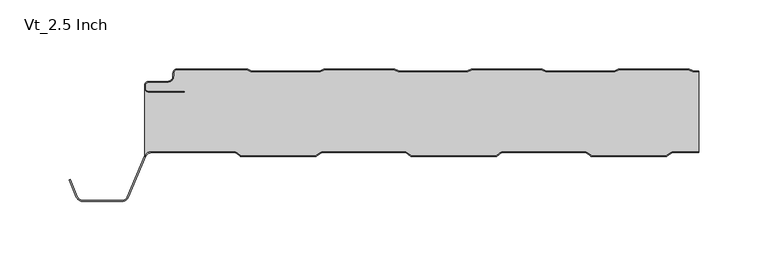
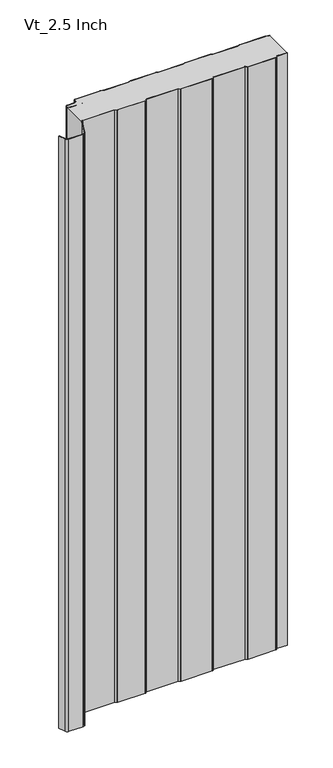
"""IFC4 building model written with IfcOpenShell, lengths in millimetres: plate geometry, AWIP_R18_CP_HR3_Vt_Roof Panel : Vt_2.5 Inch."""

import ifcopenshell
import ifcopenshell.guid

model = None  # the IFC model being written
_history = None  # IfcOwnerHistory: only IFC2X3 demands one
_inside = {}  # id of a spatial element -> (the spatial element, [elements in it])
_under = {}  # id of a project, library or spatial element -> (it, [spatial elements below it])
_declared = {}  # id of a project -> (the project, [libraries it declares])
_typed = {}  # id of a type object -> (the type object, [elements of that type])
_made_of = {}  # id of a material, layer set ... -> (it, [elements and type objects made of it])


def new_model(schema):
    """Start an empty IFC model of exactly this schema.

    Asked for "IFC4X3", IfcOpenShell would pick the latest addendum, in which some entities
    have other attributes; the version numbers below select the first issue.
    IFC2X3 requires an IfcOwnerHistory on every rooted entity: one is made here for all.
    """
    global model, _history
    if schema == "IFC4X3":
        model = ifcopenshell.file(schema_version=(4, 3, 0, 0))
    else:
        model = ifcopenshell.file(schema=schema)
    _inside.clear()
    _under.clear()
    _declared.clear()
    _typed.clear()
    _made_of.clear()
    _history = None
    if model.schema == "IFC2X3":
        org = make("IfcOrganization", Name="unknown")
        user = make(
            "IfcPersonAndOrganization",
            ThePerson=make("IfcPerson", FamilyName="unknown"),
            TheOrganization=org,
        )
        app = make(
            "IfcApplication",
            ApplicationDeveloper=org,
            Version="unknown",
            ApplicationFullName="unknown",
            ApplicationIdentifier="unknown",
        )
        _history = make(
            "IfcOwnerHistory",
            OwningUser=user,
            OwningApplication=app,
            ChangeAction="ADDED",
            CreationDate=0,
        )
    return model


def make(cls, **values):
    """One entity of the class cls with the attributes given. An attribute that is None is left unset."""
    return model.create_entity(
        cls, **{name: value for name, value in values.items() if value is not None}
    )


def rooted(cls, **values):
    """An entity with a GlobalId (a new one), such as an element, a storey or a relation."""
    return make(cls, GlobalId=ifcopenshell.guid.new(), OwnerHistory=_history, **values)


def si_unit(unit_type, name, prefix=None):
    """IfcSIUnit, for example si_unit("LENGTHUNIT", "METRE", prefix="MILLI")."""
    return make("IfcSIUnit", UnitType=unit_type, Prefix=prefix, Name=name)


def assignment(units):
    """IfcUnitAssignment: the units of a project."""
    return None if units is None else make("IfcUnitAssignment", Units=units)


def point(xyz):
    """IfcCartesianPoint."""
    return None if xyz is None else make("IfcCartesianPoint", Coordinates=xyz)


def direction(xyz):
    """IfcDirection."""
    return None if xyz is None else make("IfcDirection", DirectionRatios=xyz)


def frame(location, z_axis=None, x_axis=None):
    """IfcAxis2Placement3D, a coordinate frame: its origin and axes. An axis left out is left unset."""
    return make(
        "IfcAxis2Placement3D",
        Location=point(location),
        Axis=direction(z_axis),
        RefDirection=direction(x_axis),
    )


def frame_2d(location, x_axis=None):
    """IfcAxis2Placement2D, a coordinate frame in the plane: its origin and x axis."""
    return make(
        "IfcAxis2Placement2D", Location=point(location), RefDirection=direction(x_axis)
    )


def origin():
    """The frame at (0, 0, 0) with its axes left unset."""
    return frame((0.0, 0.0, 0.0))


def origin_with_axes():
    """The frame at (0, 0, 0) with the z axis (0, 0, 1) and the x axis (1, 0, 0) written out."""
    return frame((0.0, 0.0, 0.0), z_axis=(0.0, 0.0, 1.0), x_axis=(1.0, 0.0, 0.0))


def place(relative_to, where):
    """IfcLocalPlacement: puts the frame where relative to a parent placement (None: the world)."""
    return make(
        "IfcLocalPlacement", PlacementRelTo=relative_to, RelativePlacement=where
    )


def context(
    kind, dimensions, precision=None, world=None, true_north=None, identifier=None
):
    """IfcGeometricRepresentationContext, for example the 3D "Model" context."""
    return make(
        "IfcGeometricRepresentationContext",
        ContextIdentifier=identifier,
        ContextType=kind,
        CoordinateSpaceDimension=dimensions,
        Precision=precision,
        WorldCoordinateSystem=world,
        TrueNorth=true_north,
    )


def project(units=None, contexts=None):
    """IfcProject with its units and contexts."""
    return rooted(
        "IfcProject",
        Name="project",
        RepresentationContexts=contexts,
        UnitsInContext=assignment(units),
    )


def spatial(cls, under=None, at=None, **own):
    """A site, building, storey or space (cls), placed at a placement, below another one or the project."""
    s = rooted(cls, ObjectPlacement=at, **own)
    if under is not None:
        _under.setdefault(under.id(), (under, []))[1].append(s)
    return s


def polyline(points):
    """IfcPolyline through the points."""
    return make("IfcPolyline", Points=[point(p) for p in points])


def circle_curve(where, radius):
    """IfcCircle in the frame where."""
    return make("IfcCircle", Position=where, Radius=radius)


def trimmed(basis, trim1, trim2, sense, master):
    """IfcTrimmedCurve: the piece of a basis curve between two trims."""
    return make(
        "IfcTrimmedCurve",
        BasisCurve=basis,
        Trim1=trim1,
        Trim2=trim2,
        SenseAgreement=sense,
        MasterRepresentation=master,
    )


def segment(curve, same_sense, transition):
    """IfcCompositeCurveSegment."""
    return make(
        "IfcCompositeCurveSegment",
        Transition=transition,
        SameSense=same_sense,
        ParentCurve=curve,
    )


def composite_curve(segments, self_intersect=None):
    """IfcCompositeCurve: segments joined end to end."""
    return make("IfcCompositeCurve", Segments=segments, SelfIntersect=self_intersect)


def outline(outer, holes=None, kind="AREA"):
    """IfcArbitraryClosedProfileDef: a profile drawn as a closed curve; with holes, ...WithVoids."""
    if holes is None:
        return make("IfcArbitraryClosedProfileDef", ProfileType=kind, OuterCurve=outer)
    return make(
        "IfcArbitraryProfileDefWithVoids",
        ProfileType=kind,
        OuterCurve=outer,
        InnerCurves=holes,
    )


def extrude(swept, where, along, depth):
    """IfcExtrudedAreaSolid: the profile swept, set in the frame where, extruded along a direction by depth."""
    return make(
        "IfcExtrudedAreaSolid",
        SweptArea=swept,
        Position=where,
        ExtrudedDirection=direction(along),
        Depth=depth,
    )


def shape(context_of_items, identifier, shape_type, items):
    """IfcShapeRepresentation: the items that make up one representation, for example the "Body"."""
    return make(
        "IfcShapeRepresentation",
        ContextOfItems=context_of_items,
        RepresentationIdentifier=identifier,
        RepresentationType=shape_type,
        Items=items,
    )


def source(mapping_origin, context_of_items, identifier, shape_type, items):
    """IfcRepresentationMap: a shape defined once, which mapped items show again and again."""
    return make(
        "IfcRepresentationMap",
        MappingOrigin=mapping_origin,
        MappedRepresentation=shape(context_of_items, identifier, shape_type, items),
    )


def transform(
    local_origin,
    x_axis=None,
    y_axis=None,
    z_axis=None,
    scale=None,
    scale2=None,
    scale3=None,
    uniform=True,
):
    """IfcCartesianTransformationOperator3D, or its non-uniform kind. x_axis, y_axis, z_axis: its Axis1, 2, 3."""
    if uniform:
        return make(
            "IfcCartesianTransformationOperator3D",
            Axis1=direction(x_axis),
            Axis2=direction(y_axis),
            LocalOrigin=point(local_origin),
            Scale=scale,
            Axis3=direction(z_axis),
        )
    return make(
        "IfcCartesianTransformationOperator3DnonUniform",
        Axis1=direction(x_axis),
        Axis2=direction(y_axis),
        LocalOrigin=point(local_origin),
        Scale=scale,
        Axis3=direction(z_axis),
        Scale2=scale2,
        Scale3=scale3,
    )


def mapped(mapping_source, mapping_target):
    """IfcMappedItem: shows the shape of a source again, moved by a transform."""
    return make(
        "IfcMappedItem", MappingSource=mapping_source, MappingTarget=mapping_target
    )


def made_of(thing, what):
    """Note that an element or type object is made of a material, layer set ...; save() writes the relation."""
    if what is not None:
        _made_of.setdefault(what.id(), (what, []))[1].append(thing)
    return thing


def element(
    cls,
    number,
    at=None,
    inside=None,
    cuts=None,
    type_object=None,
    material=None,
    context=None,
    identifier="Body",
    shape_type=None,
    held_by="IfcProductDefinitionShape",
    body=None,
    shapes=None,
    **own,
):
    """One element of the class cls, such as IfcWall. Its Tag is "e" and its number.

    at: its placement. inside: the storey or other place that contains it. cuts: it is an
    opening in that element (IfcRelVoidsElement). A single representation is given by context,
    identifier, shape_type and body (its items); several are given by shapes. held_by: the class
    of the entity that holds the representations. save() writes the other relations.
    """
    e = rooted(cls, Tag="e%d" % number, ObjectPlacement=at, **own)
    if body is not None:
        shapes = [shape(context, identifier, shape_type, body)]
    if shapes is not None:
        e.Representation = make(held_by, Representations=shapes)
    if inside is not None:
        _inside.setdefault(inside.id(), (inside, []))[1].append(e)
    if cuts is not None:
        rooted(
            "IfcRelVoidsElement", RelatingBuildingElement=cuts, RelatedOpeningElement=e
        )
    if type_object is not None:
        _typed.setdefault(type_object.id(), (type_object, []))[1].append(e)
    return made_of(e, material)


def aggregate(whole, parts):
    """IfcRelAggregates: a whole, such as a stair, and the parts it consists of."""
    return rooted("IfcRelAggregates", RelatingObject=whole, RelatedObjects=parts)


def save(model, path):
    """Write the relations noted so far, then the file.

    IfcRelAggregates (storeys below a building ...), IfcRelContainedInSpatialStructure (elements
    in a storey), IfcRelDefinesByType, IfcRelAssociatesMaterial and IfcRelDeclares: one each for
    every whole, place, type object, material and project.
    """
    for whole, parts in _under.values():
        aggregate(whole, parts)
    for where, things in _inside.values():
        rooted(
            "IfcRelContainedInSpatialStructure",
            RelatedElements=things,
            RelatingStructure=where,
        )
    for kind, things in _typed.values():
        rooted("IfcRelDefinesByType", RelatedObjects=things, RelatingType=kind)
    for what, things in _made_of.values():
        rooted("IfcRelAssociatesMaterial", RelatedObjects=things, RelatingMaterial=what)
    for by, libraries in _declared.values():
        rooted("IfcRelDeclares", RelatingContext=by, RelatedDefinitions=libraries)
    model.write(path)


def plane_surface(at):
    """IfcPlane: the flat surface through the origin of the frame at, square to its z axis."""
    return make("IfcPlane", Position=at)


def cylinder_surface(at, radius):
    """IfcCylindricalSurface: all points at the distance radius from the z axis of the frame at."""
    return make("IfcCylindricalSurface", Position=at, Radius=radius)


def revolved_surface(curve, axis_point, axis_direction):
    """IfcSurfaceOfRevolution: the curve turned about the line through axis_point along axis_direction."""
    return make(
        "IfcSurfaceOfRevolution",
        SweptCurve=make("IfcArbitraryOpenProfileDef", ProfileType="CURVE", Curve=curve),
        AxisPosition=make("IfcAxis1Placement", Location=point(axis_point), Axis=direction(axis_direction)),
    )


def advanced_brep(points, edges, surfaces, faces):
    """IfcAdvancedBrep: a solid bounded by faces that lie on surfaces and meet in shared edges.

    An edge is (start, end): straight between two places in points (the first is 0);
    or (start, end, curve); or (start, end, curve, False) where it runs against its curve.
    A face is (place in surfaces, loops), or (place, loops, False) where it looks against
    its surface's normal. A loop lists edges by number (the first is 1), with a minus sign
    where the edge is run from its end to its start. The first loop is the outer one.
    """
    corners = [point(p) for p in points]
    vertices = [make("IfcVertexPoint", VertexGeometry=c) for c in corners]
    made = []
    for start, end, *more in edges:
        made.append(
            make(
                "IfcEdgeCurve",
                EdgeStart=vertices[start],
                EdgeEnd=vertices[end],
                EdgeGeometry=more[0] if more else make("IfcPolyline", Points=[corners[start], corners[end]]),
                SameSense=more[1] if len(more) > 1 else True,
            )
        )
    hull = []
    for where, loops, *sense in faces:
        bounds = []
        for j, loop in enumerate(loops):
            ring = [make("IfcOrientedEdge", EdgeElement=made[abs(k) - 1], Orientation=k > 0) for k in loop]
            bounds.append(
                make(
                    "IfcFaceOuterBound" if j == 0 else "IfcFaceBound",
                    Bound=make("IfcEdgeLoop", EdgeList=ring),
                    Orientation=True,
                )
            )
        hull.append(make("IfcAdvancedFace", Bounds=bounds, FaceSurface=surfaces[where], SameSense=sense[0] if sense else True))
    return make("IfcAdvancedBrep", Outer=make("IfcClosedShell", CfsFaces=hull))


def vt_2_5_inch_222ce7d2(model_context):
    return source(origin(), model_context, "Body", "SolidModel", [
        advanced_brep(
        [(215.9042607, -59.9158806, 1219.2), (215.9042607, -59.9158806, 0.0), (215.9042607, -2.3, 0.0), (215.9042607, -2.3, 1219.2), (-180.6614903, -59.9158805, 1219.2), (-119.8775734, -59.9158805, 1219.2), (-119.1161836, -60.1621797, 1219.2), (-115.604049, -62.7, 1219.2), (-61.4011687, -62.7, 1219.2), (-57.8890342, -60.1621797, 1219.2), (-57.1276444, -59.9158805, 1219.2), (3.3684818, -59.9158805, 1219.2), (4.1298717, -60.1621797, 1219.2), (7.6420063, -62.7000001, 1219.2), (69.1027521, -62.7000001, 1219.2), (72.6148867, -60.1621797, 1219.2), (73.3762764, -59.9158806, 1219.2), (133.8724069, -59.9158806, 1219.2), (134.6337968, -60.1621798, 1219.2), (138.1459308, -62.7000001, 1219.2), (192.3488119, -62.7000001, 1219.2), (195.8609464, -60.1621797, 1219.2), (196.6223362, -59.9158806, 1219.2), (212.4037368, -2.3, 1219.2), (211.0949824, -2.0293831, 1219.2), (208.7048832, -0.9968123, 1219.2), (207.7530619, -0.8, 1219.2), (158.8384168, -0.8, 1219.2), (157.8865954, -0.9968123, 1219.2), (155.4964962, -2.0293831, 1219.2), (154.1877419, -2.3, 1219.2), (105.8037368, -2.3, 1219.2), (104.4949824, -2.0293831, 1219.2), (102.1048832, -0.9968123, 1219.2), (101.1530619, -0.8, 1219.2), (52.2384168, -0.8, 1219.2), (51.2865954, -0.9968123, 1219.2), (48.8964962, -2.0293831, 1219.2), (47.5877419, -2.3, 1219.2), (-0.7962632, -2.3, 1219.2), (-2.1050176, -2.0293831, 1219.2), (-4.4951168, -0.9968123, 1219.2), (-5.4469381, -0.8, 1219.2), (-54.3615832, -0.8, 1219.2), (-55.3134046, -0.9968123, 1219.2), (-57.7035038, -2.0293831, 1219.2), (-59.0122581, -2.3, 1219.2), (-107.3962632, -2.3, 1219.2), (-108.7050176, -2.0293831, 1219.2), (-111.0951168, -0.9968123, 1219.2), (-112.0469381, -0.8, 1219.2), (-161.8042607, -0.8, 1219.2), (-164.0042607, -3.0, 1219.2), (-164.0042607, -5.0, 1219.2), (-168.8042607, -9.8, 1219.2), (-182.3200708, -9.8, 1219.2), (-184.5200708, -12.0, 1219.2), (-184.5200708, -14.0, 1219.2), (-182.3200708, -16.2, 1219.2), (-156.3790289, -16.2, 1219.2), (-156.3790289, -17.0, 1219.2), (-182.3200708, -17.0, 1219.2), (-185.3200708, -14.0, 1219.2), (-185.3370174, -63.6298575, 1219.2), (-180.6614903, -59.9158805, 0.0), (-185.3370174, -63.6298575, 0.0), (-185.3370174, -14.0, 0.0), (-182.3200708, -17.0, 0.0), (-156.3790289, -17.0, 0.0), (-156.3790289, -16.2, 0.0), (-182.3200708, -16.2, 0.0), (-184.5200708, -14.0, 0.0), (-184.5200708, -12.0, 0.0), (-182.3200708, -9.8, 0.0), (-168.8042607, -9.8, 0.0), (-164.0042607, -5.0, 0.0), (-164.0042607, -3.0, 0.0), (-161.8042607, -0.8, 0.0), (-112.0469381, -0.8, 0.0), (-111.0951168, -0.9968123, 0.0), (-108.7050176, -2.0293831, 0.0), (-107.3962632, -2.3, 0.0), (-59.0122581, -2.3, 0.0), (-57.7035038, -2.0293831, 0.0), (-55.3134046, -0.9968123, 0.0), (-54.3615832, -0.8, 0.0), (-5.4469381, -0.8, 0.0), (-4.4951168, -0.9968123, 0.0), (-2.1050176, -2.0293831, 0.0), (-0.7962632, -2.3, 0.0), (47.5877419, -2.3, 0.0), (48.8964962, -2.0293831, 0.0), (51.2865954, -0.9968123, 0.0), (52.2384168, -0.8, 0.0), (101.1530619, -0.8, 0.0), (102.1048832, -0.9968123, 0.0), (104.4949824, -2.0293831, 0.0), (105.8037368, -2.3, 0.0), (154.1877419, -2.3, 0.0), (155.4964962, -2.0293831, 0.0), (157.8865954, -0.9968123, 0.0), (158.8384168, -0.8, 0.0), (207.7530619, -0.8, 0.0), (208.7048832, -0.9968123, 0.0), (211.0949824, -2.0293831, 0.0), (212.4037368, -2.3, 0.0), (196.6223362, -59.9158806, 0.0), (195.8609464, -60.1621797, 0.0), (192.3488119, -62.7000001, 0.0), (138.1459308, -62.7000001, 0.0), (134.6337968, -60.1621798, 0.0), (133.8724069, -59.9158806, 0.0), (73.3762764, -59.9158806, 0.0), (72.6148867, -60.1621797, 0.0), (69.1027521, -62.7000001, 0.0), (7.6420063, -62.7000001, 0.0), (4.1298717, -60.1621797, 0.0), (3.3684818, -59.9158805, 0.0), (-57.1276444, -59.9158805, 0.0), (-57.8890342, -60.1621797, 0.0), (-61.4011687, -62.7, 0.0), (-115.604049, -62.7, 0.0), (-119.1161836, -60.1621797, 0.0), (-119.8775734, -59.9158805, 0.0)],
        [
            (0, 1),
            (1, 2),
            (2, 3),
            (3, 0),
            (4, 5),
            (5, 6, circle_curve(frame((-119.8775734, -61.2158805, 1219.2), z_axis=(0.0, 0.0, -1.0), x_axis=(0.0, -1.0, 0.0)), 1.3)),
            (6, 7),
            (7, 8),
            (8, 9),
            (9, 10, circle_curve(frame((-57.1276444, -61.2158805, 1219.2), z_axis=(0.0, 0.0, -1.0), x_axis=(0.0, -1.0, 0.0)), 1.3)),
            (10, 11),
            (11, 12, circle_curve(frame((3.3684818, -61.2158805, 1219.2), z_axis=(0.0, 0.0, -1.0), x_axis=(0.0, -1.0, 0.0)), 1.3)),
            (12, 13),
            (13, 14),
            (14, 15),
            (15, 16, circle_curve(frame((73.3762764, -61.2158804, 1219.2), z_axis=(0.0, 0.0, -1.0), x_axis=(0.0, -1.0, 0.0)), 1.2999998)),
            (16, 17),
            (17, 18, circle_curve(frame((133.8724069, -61.2158806, 1219.2), z_axis=(0.0, 0.0, -1.0), x_axis=(0.0, -1.0, 0.0)), 1.3)),
            (18, 19),
            (19, 20),
            (20, 21),
            (21, 22, circle_curve(frame((196.6223362, -61.2158806, 1219.2), z_axis=(0.0, 0.0, -1.0), x_axis=(0.0, -1.0, 0.0)), 1.3)),
            (22, 0),
            (3, 23),
            (23, 24, circle_curve(frame((212.4037368, 1.0, 1219.2), z_axis=(0.0, 0.0, -1.0), x_axis=(0.0, -1.0, 0.0)), 3.3)),
            (24, 25),
            (25, 26, circle_curve(frame((207.7530619, -3.2, 1219.2), z_axis=(0.0, 0.0, 1.0), x_axis=(0.0, -1.0, 0.0)), 2.4)),
            (26, 27),
            (27, 28, circle_curve(frame((158.8384168, -3.2, 1219.2), z_axis=(0.0, 0.0, 1.0), x_axis=(0.0, -1.0, 0.0)), 2.4)),
            (28, 29),
            (29, 30, circle_curve(frame((154.1877419, 1.0, 1219.2), z_axis=(0.0, 0.0, -1.0), x_axis=(0.0, -1.0, 0.0)), 3.3)),
            (30, 31),
            (31, 32, circle_curve(frame((105.8037368, 1.0, 1219.2), z_axis=(0.0, 0.0, -1.0), x_axis=(0.0, -1.0, 0.0)), 3.3)),
            (32, 33),
            (33, 34, circle_curve(frame((101.1530619, -3.2, 1219.2), z_axis=(0.0, 0.0, 1.0), x_axis=(0.0, -1.0, 0.0)), 2.4)),
            (34, 35),
            (35, 36, circle_curve(frame((52.2384168, -3.2, 1219.2), z_axis=(0.0, 0.0, 1.0), x_axis=(0.0, -1.0, 0.0)), 2.4)),
            (36, 37),
            (37, 38, circle_curve(frame((47.5877419, 1.0, 1219.2), z_axis=(0.0, 0.0, -1.0), x_axis=(0.0, -1.0, 0.0)), 3.3)),
            (38, 39),
            (39, 40, circle_curve(frame((-0.7962632, 1.0, 1219.2), z_axis=(0.0, 0.0, -1.0), x_axis=(0.0, -1.0, 0.0)), 3.3)),
            (40, 41),
            (41, 42, circle_curve(frame((-5.4469381, -3.2, 1219.2), z_axis=(0.0, 0.0, 1.0), x_axis=(0.0, -1.0, 0.0)), 2.4)),
            (42, 43),
            (43, 44, circle_curve(frame((-54.3615832, -3.2, 1219.2), z_axis=(0.0, 0.0, 1.0), x_axis=(0.0, -1.0, 0.0)), 2.4)),
            (44, 45),
            (45, 46, circle_curve(frame((-59.0122581, 1.0, 1219.2), z_axis=(0.0, 0.0, -1.0), x_axis=(0.0, -1.0, 0.0)), 3.3)),
            (46, 47),
            (47, 48, circle_curve(frame((-107.3962632, 1.0, 1219.2), z_axis=(0.0, 0.0, -1.0), x_axis=(0.0, -1.0, 0.0)), 3.3)),
            (48, 49),
            (49, 50, circle_curve(frame((-112.0469381, -3.2, 1219.2), z_axis=(0.0, 0.0, 1.0), x_axis=(0.0, -1.0, 0.0)), 2.4)),
            (50, 51),
            (51, 52, circle_curve(frame((-161.8042607, -3.0, 1219.2), z_axis=(0.0, 0.0, 1.0), x_axis=(0.0, -1.0, 0.0)), 2.2)),
            (52, 53),
            (53, 54, circle_curve(frame((-168.8042607, -5.0, 1219.2), z_axis=(0.0, 0.0, -1.0), x_axis=(0.0, -1.0, 0.0)), 4.8)),
            (54, 55),
            (55, 56, circle_curve(frame((-182.3200708, -12.0, 1219.2), z_axis=(0.0, 0.0, 1.0), x_axis=(0.0, -1.0, 0.0)), 2.2)),
            (56, 57),
            (57, 58, circle_curve(frame((-182.3200708, -14.0, 1219.2), z_axis=(0.0, 0.0, 1.0), x_axis=(0.0, -1.0, 0.0)), 2.2)),
            (58, 59),
            (59, 60),
            (60, 61),
            (61, 62, circle_curve(frame((-182.3200708, -14.0, 1219.2), z_axis=(0.0, 0.0, -1.0), x_axis=(0.0, -1.0, 0.0)), 3.0)),
            (62, 63),
            (63, 4, circle_curve(frame((-180.6614903, -64.7158804, 1219.2), z_axis=(0.0, 0.0, -1.0), x_axis=(0.0, -1.0, 0.0)), 4.7999999)),
            (64, 65, circle_curve(frame((-180.6614903, -64.7158804, 0.0), z_axis=(0.0, 0.0, 1.0), x_axis=(0.0, -1.0, 0.0)), 4.7999999)),
            (65, 66),
            (66, 67, circle_curve(frame((-182.3200708, -14.0, 0.0), z_axis=(0.0, 0.0, 1.0), x_axis=(0.0, -1.0, 0.0)), 3.0)),
            (67, 68),
            (68, 69),
            (69, 70),
            (70, 71, circle_curve(frame((-182.3200708, -14.0, 0.0), z_axis=(0.0, 0.0, -1.0), x_axis=(0.0, -1.0, 0.0)), 2.2)),
            (71, 72),
            (72, 73, circle_curve(frame((-182.3200708, -12.0, 0.0), z_axis=(0.0, 0.0, -1.0), x_axis=(0.0, -1.0, 0.0)), 2.2)),
            (73, 74),
            (74, 75, circle_curve(frame((-168.8042607, -5.0, 0.0), z_axis=(0.0, 0.0, 1.0), x_axis=(0.0, -1.0, 0.0)), 4.8)),
            (75, 76),
            (76, 77, circle_curve(frame((-161.8042607, -3.0, 0.0), z_axis=(0.0, 0.0, -1.0), x_axis=(0.0, -1.0, 0.0)), 2.2)),
            (77, 78),
            (78, 79, circle_curve(frame((-112.0469381, -3.2, 0.0), z_axis=(0.0, 0.0, -1.0), x_axis=(0.0, -1.0, 0.0)), 2.4)),
            (79, 80),
            (80, 81, circle_curve(frame((-107.3962632, 1.0, 0.0), z_axis=(0.0, 0.0, 1.0), x_axis=(0.0, -1.0, 0.0)), 3.3)),
            (81, 82),
            (82, 83, circle_curve(frame((-59.0122581, 1.0, 0.0), z_axis=(0.0, 0.0, 1.0), x_axis=(0.0, -1.0, 0.0)), 3.3)),
            (83, 84),
            (84, 85, circle_curve(frame((-54.3615832, -3.2, 0.0), z_axis=(0.0, 0.0, -1.0), x_axis=(0.0, -1.0, 0.0)), 2.4)),
            (85, 86),
            (86, 87, circle_curve(frame((-5.4469381, -3.2, 0.0), z_axis=(0.0, 0.0, -1.0), x_axis=(0.0, -1.0, 0.0)), 2.4)),
            (87, 88),
            (88, 89, circle_curve(frame((-0.7962632, 1.0, 0.0), z_axis=(0.0, 0.0, 1.0), x_axis=(0.0, -1.0, 0.0)), 3.3)),
            (89, 90),
            (90, 91, circle_curve(frame((47.5877419, 1.0, 0.0), z_axis=(0.0, 0.0, 1.0), x_axis=(0.0, -1.0, 0.0)), 3.3)),
            (91, 92),
            (92, 93, circle_curve(frame((52.2384168, -3.2, 0.0), z_axis=(0.0, 0.0, -1.0), x_axis=(0.0, -1.0, 0.0)), 2.4)),
            (93, 94),
            (94, 95, circle_curve(frame((101.1530619, -3.2, 0.0), z_axis=(0.0, 0.0, -1.0), x_axis=(0.0, -1.0, 0.0)), 2.4)),
            (95, 96),
            (96, 97, circle_curve(frame((105.8037368, 1.0, 0.0), z_axis=(0.0, 0.0, 1.0), x_axis=(0.0, -1.0, 0.0)), 3.3)),
            (97, 98),
            (98, 99, circle_curve(frame((154.1877419, 1.0, 0.0), z_axis=(0.0, 0.0, 1.0), x_axis=(0.0, -1.0, 0.0)), 3.3)),
            (99, 100),
            (100, 101, circle_curve(frame((158.8384168, -3.2, 0.0), z_axis=(0.0, 0.0, -1.0), x_axis=(0.0, -1.0, 0.0)), 2.4)),
            (101, 102),
            (102, 103, circle_curve(frame((207.7530619, -3.2, 0.0), z_axis=(0.0, 0.0, -1.0), x_axis=(0.0, -1.0, 0.0)), 2.4)),
            (103, 104),
            (104, 105, circle_curve(frame((212.4037368, 1.0, 0.0), z_axis=(0.0, 0.0, 1.0), x_axis=(0.0, -1.0, 0.0)), 3.3)),
            (105, 2),
            (1, 106),
            (106, 107, circle_curve(frame((196.6223362, -61.2158806, 0.0), z_axis=(0.0, 0.0, 1.0), x_axis=(0.0, -1.0, 0.0)), 1.3)),
            (107, 108),
            (108, 109),
            (109, 110),
            (110, 111, circle_curve(frame((133.8724069, -61.2158806, 0.0), z_axis=(0.0, 0.0, 1.0), x_axis=(0.0, -1.0, 0.0)), 1.3)),
            (111, 112),
            (112, 113, circle_curve(frame((73.3762764, -61.2158804, 0.0), z_axis=(0.0, 0.0, 1.0), x_axis=(0.0, -1.0, 0.0)), 1.2999998)),
            (113, 114),
            (114, 115),
            (115, 116),
            (116, 117, circle_curve(frame((3.3684818, -61.2158805, 0.0), z_axis=(0.0, 0.0, 1.0), x_axis=(0.0, -1.0, 0.0)), 1.3)),
            (117, 118),
            (118, 119, circle_curve(frame((-57.1276444, -61.2158805, 0.0), z_axis=(0.0, 0.0, 1.0), x_axis=(0.0, -1.0, 0.0)), 1.3)),
            (119, 120),
            (120, 121),
            (121, 122),
            (122, 123, circle_curve(frame((-119.8775734, -61.2158805, 0.0), z_axis=(0.0, 0.0, 1.0), x_axis=(0.0, -1.0, 0.0)), 1.3)),
            (123, 64),
            (63, 65),
            (64, 4),
            (62, 66),
            (61, 67),
            (60, 68),
            (59, 69),
            (58, 70),
            (57, 71),
            (56, 72),
            (55, 73),
            (54, 74),
            (53, 75),
            (52, 76),
            (51, 77),
            (50, 78),
            (49, 79),
            (48, 80),
            (47, 81),
            (46, 82),
            (45, 83),
            (44, 84),
            (43, 85),
            (42, 86),
            (41, 87),
            (40, 88),
            (39, 89),
            (38, 90),
            (37, 91),
            (36, 92),
            (35, 93),
            (34, 94),
            (33, 95),
            (32, 96),
            (31, 97),
            (30, 98),
            (29, 99),
            (28, 100),
            (27, 101),
            (26, 102),
            (25, 103),
            (24, 104),
            (23, 105),
            (22, 106),
            (21, 107),
            (20, 108),
            (19, 109),
            (18, 110),
            (17, 111),
            (16, 112),
            (15, 113),
            (14, 114),
            (13, 115),
            (12, 116),
            (11, 117),
            (10, 118),
            (9, 119),
            (8, 120),
            (7, 121),
            (6, 122),
            (5, 123),
        ],
        [
            plane_surface(frame((215.9042607, -128.5, 1219.2), z_axis=(1.0, 0.0, 0.0), x_axis=(0.0, 0.0, -1.0))),
            plane_surface(frame((292.0957393, -0.8, 1219.2), z_axis=(0.0, 0.0, 1.0), x_axis=(0.0, -1.0, 0.0))),
            plane_surface(frame((292.0957393, -0.8, 0.0), z_axis=(0.0, 0.0, -1.0), x_axis=(0.0, -1.0, 0.0))),
            revolved_surface(polyline([(-180.6614903, -69.5158803, 0.0), (-180.6614903, -69.5158803, 1219.2)]), (-180.6614903, -64.7158804, 1219.2), (0.0, 0.0, -1.0)),
            plane_surface(frame((-185.3370174, -63.6298575, 1219.2), z_axis=(-1.0, 0.0, 0.0), x_axis=(0.0, 0.0, -1.0))),
            revolved_surface(polyline([(-182.3200708, -17.0, 0.0), (-182.3200708, -17.0, 1219.2)]), (-182.3200708, -14.0, 1219.2), (0.0, 0.0, -1.0)),
            plane_surface(frame((-182.3200708, -17.0, 1219.2), z_axis=(0.0, 1.0, 0.0), x_axis=(0.0, 0.0, -1.0))),
            plane_surface(frame((-156.3790289, -17.0, 1219.2), z_axis=(-1.0, 0.0, 0.0), x_axis=(0.0, 0.0, -1.0))),
            plane_surface(frame((-156.3790289, -16.2, 1219.2), z_axis=(0.0, -1.0, 0.0), x_axis=(0.0, 0.0, -1.0))),
            cylinder_surface(frame((-182.3200708, -14.0, 1219.2), z_axis=(0.0, 0.0, 1.0), x_axis=(0.0, -1.0, 0.0)), 2.2),
            plane_surface(frame((-184.5200708, -14.0, 1219.2), z_axis=(-1.0, 0.0, 0.0), x_axis=(0.0, 0.0, -1.0))),
            cylinder_surface(frame((-182.3200708, -12.0, 1219.2), z_axis=(0.0, 0.0, 1.0), x_axis=(0.0, -1.0, 0.0)), 2.2),
            plane_surface(frame((-182.3200708, -9.8, 1219.2), z_axis=(0.0, 1.0, 0.0), x_axis=(0.0, 0.0, -1.0))),
            revolved_surface(polyline([(-168.8042607, -9.8, 0.0), (-168.8042607, -9.8, 1219.2)]), (-168.8042607, -5.0, 1219.2), (0.0, 0.0, -1.0)),
            plane_surface(frame((-164.0042607, -5.0, 1219.2), z_axis=(-1.0, 0.0, 0.0), x_axis=(0.0, 0.0, -1.0))),
            cylinder_surface(frame((-161.8042607, -3.0, 1219.2), z_axis=(0.0, 0.0, 1.0), x_axis=(0.0, -1.0, 0.0)), 2.2),
            plane_surface(frame((-161.8042607, -0.8, 1219.2), z_axis=(0.0, 1.0, 0.0), x_axis=(0.0, 0.0, -1.0))),
            cylinder_surface(frame((-112.0469381, -3.2, 1219.2), z_axis=(0.0, 0.0, 1.0), x_axis=(0.0, -1.0, 0.0)), 2.4),
            plane_surface(frame((-111.0951168, -0.9968123, 1219.2), z_axis=(0.39659222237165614, 0.9179948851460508, 0.0), x_axis=(0.0, 0.0, -1.0))),
            revolved_surface(polyline([(-107.3962632, -2.3, 0.0), (-107.3962632, -2.3, 1219.2)]), (-107.3962632, 1.0, 1219.2), (0.0, 0.0, -1.0)),
            plane_surface(frame((-107.3962632, -2.3, 1219.2), z_axis=(0.0, 1.0, 0.0), x_axis=(0.0, 0.0, -1.0))),
            revolved_surface(polyline([(-59.0122581, -2.3, 0.0), (-59.0122581, -2.3, 1219.2)]), (-59.0122581, 1.0, 1219.2), (0.0, 0.0, -1.0)),
            plane_surface(frame((-57.7035038, -2.0293831, 1219.2), z_axis=(-0.396592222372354, 0.9179948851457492, 0.0), x_axis=(0.0, 0.0, -1.0))),
            cylinder_surface(frame((-54.3615832, -3.2, 1219.2), z_axis=(0.0, 0.0, 1.0), x_axis=(0.0, -1.0, 0.0)), 2.4),
            plane_surface(frame((-54.3615832, -0.8, 1219.2), z_axis=(0.0, 1.0, 0.0), x_axis=(0.0, 0.0, -1.0))),
            cylinder_surface(frame((-5.4469381, -3.2, 1219.2), z_axis=(0.0, 0.0, 1.0), x_axis=(0.0, -1.0, 0.0)), 2.4),
            plane_surface(frame((-4.4951168, -0.9968123, 1219.2), z_axis=(0.39659222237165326, 0.9179948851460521, 0.0), x_axis=(0.0, 0.0, -1.0))),
            revolved_surface(polyline([(-0.7962632, -2.3, 0.0), (-0.7962632, -2.3, 1219.2)]), (-0.7962632, 1.0, 1219.2), (0.0, 0.0, -1.0)),
            plane_surface(frame((-0.7962632, -2.3, 1219.2), z_axis=(0.0, 1.0, 0.0), x_axis=(0.0, 0.0, -1.0))),
            revolved_surface(polyline([(47.5877419, -2.3, 0.0), (47.5877419, -2.3, 1219.2)]), (47.5877419, 1.0, 1219.2), (0.0, 0.0, -1.0)),
            plane_surface(frame((48.8964962, -2.0293831, 1219.2), z_axis=(-0.39659222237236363, 0.9179948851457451, 0.0), x_axis=(0.0, 0.0, -1.0))),
            cylinder_surface(frame((52.2384168, -3.2, 1219.2), z_axis=(0.0, 0.0, 1.0), x_axis=(0.0, -1.0, 0.0)), 2.4),
            plane_surface(frame((52.2384168, -0.8, 1219.2), z_axis=(0.0, 1.0, 0.0), x_axis=(0.0, 0.0, -1.0))),
            cylinder_surface(frame((101.1530619, -3.2, 1219.2), z_axis=(0.0, 0.0, 1.0), x_axis=(0.0, -1.0, 0.0)), 2.4),
            plane_surface(frame((102.1048832, -0.9968123, 1219.2), z_axis=(0.3965922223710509, 0.9179948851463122, 0.0), x_axis=(0.0, 0.0, -1.0))),
            revolved_surface(polyline([(105.8037368, -2.3, 0.0), (105.8037368, -2.3, 1219.2)]), (105.8037368, 1.0, 1219.2), (0.0, 0.0, -1.0)),
            plane_surface(frame((105.8037368, -2.3, 1219.2), z_axis=(0.0, 1.0, 0.0), x_axis=(0.0, 0.0, -1.0))),
            revolved_surface(polyline([(154.1877419, -2.3, 0.0), (154.1877419, -2.3, 1219.2)]), (154.1877419, 1.0, 1219.2), (0.0, 0.0, -1.0)),
            plane_surface(frame((155.4964962, -2.0293831, 1219.2), z_axis=(-0.39659222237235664, 0.9179948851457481, 0.0), x_axis=(0.0, 0.0, -1.0))),
            cylinder_surface(frame((158.8384168, -3.2, 1219.2), z_axis=(0.0, 0.0, 1.0), x_axis=(0.0, -1.0, 0.0)), 2.4),
            plane_surface(frame((158.8384168, -0.8, 1219.2), z_axis=(0.0, 1.0, 0.0), x_axis=(0.0, 0.0, -1.0))),
            cylinder_surface(frame((207.7530619, -3.2, 1219.2), z_axis=(0.0, 0.0, 1.0), x_axis=(0.0, -1.0, 0.0)), 2.4),
            plane_surface(frame((208.7048832, -0.9968123, 1219.2), z_axis=(0.39659222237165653, 0.9179948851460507, 0.0), x_axis=(0.0, 0.0, -1.0))),
            revolved_surface(polyline([(212.4037368, -2.3, 0.0), (212.4037368, -2.3, 1219.2)]), (212.4037368, 1.0, 1219.2), (0.0, 0.0, -1.0)),
            plane_surface(frame((212.4037368, -2.3, 1219.2), z_axis=(0.0, 1.0, 0.0), x_axis=(0.0, 0.0, -1.0))),
            plane_surface(frame((257.1184818, -59.9158806, 1219.2), z_axis=(0.0, -1.0, 0.0), x_axis=(0.0, 0.0, -1.0))),
            revolved_surface(polyline([(196.6223362, -62.515880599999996, 0.0), (196.6223362, -62.515880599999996, 1219.2)]), (196.6223362, -61.2158806, 1219.2), (0.0, 0.0, -1.0)),
            plane_surface(frame((195.8609464, -60.1621797, 1219.2), z_axis=(0.5856844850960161, -0.8105391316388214, 0.0), x_axis=(0.0, 0.0, -1.0))),
            plane_surface(frame((192.3488119, -62.7000001, 1219.2), z_axis=(0.0, -1.0, 0.0), x_axis=(0.0, 0.0, -1.0))),
            plane_surface(frame((138.1459308, -62.7000001, 1219.2), z_axis=(-0.585684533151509, -0.8105390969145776, 0.0), x_axis=(0.0, 0.0, -1.0))),
            revolved_surface(polyline([(133.8724069, -62.515880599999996, 0.0), (133.8724069, -62.515880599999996, 1219.2)]), (133.8724069, -61.2158806, 1219.2), (0.0, 0.0, -1.0)),
            plane_surface(frame((133.8724069, -59.9158806, 1219.2), z_axis=(0.0, -1.0, 0.0), x_axis=(0.0, 0.0, -1.0))),
            revolved_surface(polyline([(73.3762764, -62.515880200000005, 0.0), (73.3762764, -62.515880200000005, 1219.2)]), (73.3762764, -61.2158804, 1219.2), (0.0, 0.0, -1.0)),
            plane_surface(frame((72.6148867, -60.1621797, 1219.2), z_axis=(0.5856844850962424, -0.8105391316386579, 0.0), x_axis=(0.0, 0.0, -1.0))),
            plane_surface(frame((69.1027521, -62.7000001, 1219.2), z_axis=(0.0, -1.0, 0.0), x_axis=(0.0, 0.0, -1.0))),
            plane_surface(frame((7.6420063, -62.7000001, 1219.2), z_axis=(-0.5856844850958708, -0.8105391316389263, 0.0), x_axis=(0.0, 0.0, -1.0))),
            revolved_surface(polyline([(3.3684818, -62.515880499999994, 0.0), (3.3684818, -62.515880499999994, 1219.2)]), (3.3684818, -61.2158805, 1219.2), (0.0, 0.0, -1.0)),
            plane_surface(frame((3.3684818, -59.9158805, 1219.2), z_axis=(0.0, -1.0, 0.0), x_axis=(0.0, 0.0, -1.0))),
            revolved_surface(polyline([(-57.1276444, -62.515880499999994, 0.0), (-57.1276444, -62.515880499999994, 1219.2)]), (-57.1276444, -61.2158805, 1219.2), (0.0, 0.0, -1.0)),
            plane_surface(frame((-57.8890342, -60.1621797, 1219.2), z_axis=(0.5856844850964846, -0.8105391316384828, 0.0), x_axis=(0.0, 0.0, -1.0))),
            plane_surface(frame((-61.4011687, -62.7, 1219.2), z_axis=(0.0, -1.0, 0.0), x_axis=(0.0, 0.0, -1.0))),
            plane_surface(frame((-115.604049, -62.7, 1219.2), z_axis=(-0.5856844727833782, -0.8105391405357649, 0.0), x_axis=(0.0, 0.0, -1.0))),
            revolved_surface(polyline([(-119.8775734, -62.515880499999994, 0.0), (-119.8775734, -62.515880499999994, 1219.2)]), (-119.8775734, -61.2158805, 1219.2), (0.0, 0.0, -1.0)),
            plane_surface(frame((-119.8775734, -59.9158805, 1219.2), z_axis=(0.0, -1.0, 0.0), x_axis=(0.0, 0.0, -1.0))),
        ],
        [
            (0, [[1, 2, 3, 4]]),
            (1, [[5, 6, 7, 8, 9, 10, 11, 12, 13, 14, 15, 16, 17, 18, 19, 20, 21, 22, 23, -4, 24, 25, 26, 27, 28, 29, 30, 31, 32, 33, 34, 35, 36, 37, 38, 39, 40, 41, 42, 43, 44, 45, 46, 47, 48, 49, 50, 51, 52, 53, 54, 55, 56, 57, 58, 59, 60, 61, 62, 63, 64, 65]]),
            (2, [[66, 67, 68, 69, 70, 71, 72, 73, 74, 75, 76, 77, 78, 79, 80, 81, 82, 83, 84, 85, 86, 87, 88, 89, 90, 91, 92, 93, 94, 95, 96, 97, 98, 99, 100, 101, 102, 103, 104, 105, 106, 107, -2, 108, 109, 110, 111, 112, 113, 114, 115, 116, 117, 118, 119, 120, 121, 122, 123, 124, 125, 126]]),
            (3, [[127, -66, 128, -65]]),
            (4, [[129, -67, -127, -64]]),
            (5, [[130, -68, -129, -63]]),
            (6, [[131, -69, -130, -62]]),
            (7, [[132, -70, -131, -61]]),
            (8, [[133, -71, -132, -60]]),
            (9, [[134, -72, -133, -59]]),
            (10, [[135, -73, -134, -58]]),
            (11, [[136, -74, -135, -57]]),
            (12, [[137, -75, -136, -56]]),
            (13, [[138, -76, -137, -55]]),
            (14, [[139, -77, -138, -54]]),
            (15, [[140, -78, -139, -53]]),
            (16, [[141, -79, -140, -52]]),
            (17, [[142, -80, -141, -51]]),
            (18, [[143, -81, -142, -50]]),
            (19, [[144, -82, -143, -49]]),
            (20, [[145, -83, -144, -48]]),
            (21, [[146, -84, -145, -47]]),
            (22, [[147, -85, -146, -46]]),
            (23, [[148, -86, -147, -45]]),
            (24, [[149, -87, -148, -44]]),
            (25, [[150, -88, -149, -43]]),
            (26, [[151, -89, -150, -42]]),
            (27, [[152, -90, -151, -41]]),
            (28, [[153, -91, -152, -40]]),
            (29, [[154, -92, -153, -39]]),
            (30, [[155, -93, -154, -38]]),
            (31, [[156, -94, -155, -37]]),
            (32, [[157, -95, -156, -36]]),
            (33, [[158, -96, -157, -35]]),
            (34, [[159, -97, -158, -34]]),
            (35, [[160, -98, -159, -33]]),
            (36, [[161, -99, -160, -32]]),
            (37, [[162, -100, -161, -31]]),
            (38, [[163, -101, -162, -30]]),
            (39, [[164, -102, -163, -29]]),
            (40, [[165, -103, -164, -28]]),
            (41, [[166, -104, -165, -27]]),
            (42, [[167, -105, -166, -26]]),
            (43, [[168, -106, -167, -25]]),
            (44, [[-24, -3, -107, -168]]),
            (45, [[-108, -1, -23, 169]]),
            (46, [[170, -109, -169, -22]]),
            (47, [[171, -110, -170, -21]]),
            (48, [[172, -111, -171, -20]]),
            (49, [[173, -112, -172, -19]]),
            (50, [[174, -113, -173, -18]]),
            (51, [[175, -114, -174, -17]]),
            (52, [[176, -115, -175, -16]]),
            (53, [[177, -116, -176, -15]]),
            (54, [[178, -117, -177, -14]]),
            (55, [[179, -118, -178, -13]]),
            (56, [[180, -119, -179, -12]]),
            (57, [[181, -120, -180, -11]]),
            (58, [[182, -121, -181, -10]]),
            (59, [[183, -122, -182, -9]]),
            (60, [[184, -123, -183, -8]]),
            (61, [[185, -124, -184, -7]]),
            (62, [[186, -125, -185, -6]]),
            (63, [[-128, -126, -186, -5]]),
        ],
    ),
        extrude(outline(composite_curve([segment(polyline([(212.4037368, -1.5), (215.9042607, -1.5), (215.9042607, -2.3), (212.4037368, -2.3)]), True, "CONTINUOUS"), segment(trimmed(circle_curve(frame_2d((212.4037368, 1.0)), 3.3), [point((212.4037368, -2.3))], [point((211.0949824, -2.0293831))], False, "CARTESIAN"), True, "CONTINUOUS"), segment(polyline([(211.0949824, -2.0293831), (208.7048832, -0.9968123)]), True, "CONTINUOUS"), segment(trimmed(circle_curve(frame_2d((207.7530619, -3.2)), 2.4), [point((208.7048832, -0.9968123))], [point((207.7530619, -0.8))], True, "CARTESIAN"), True, "CONTINUOUS"), segment(polyline([(207.7530619, -0.8), (158.8384168, -0.8)]), True, "CONTINUOUS"), segment(trimmed(circle_curve(frame_2d((158.8384168, -3.2)), 2.4), [point((158.8384168, -0.8))], [point((157.8865954, -0.9968123))], True, "CARTESIAN"), True, "CONTINUOUS"), segment(polyline([(157.8865954, -0.9968123), (155.4964962, -2.0293831)]), True, "CONTINUOUS"), segment(trimmed(circle_curve(frame_2d((154.1877419, 1.0)), 3.3), [point((155.4964962, -2.0293831))], [point((154.1877419, -2.3))], False, "CARTESIAN"), True, "CONTINUOUS"), segment(polyline([(154.1877419, -2.3), (105.8037368, -2.3)]), True, "CONTINUOUS"), segment(trimmed(circle_curve(frame_2d((105.8037368, 1.0)), 3.3), [point((105.8037368, -2.3))], [point((104.4949824, -2.0293831))], False, "CARTESIAN"), True, "CONTINUOUS"), segment(polyline([(104.4949824, -2.0293831), (102.1048832, -0.9968123)]), True, "CONTINUOUS"), segment(trimmed(circle_curve(frame_2d((101.1530619, -3.2)), 2.4), [point((102.1048832, -0.9968123))], [point((101.1530619, -0.8))], True, "CARTESIAN"), True, "CONTINUOUS"), segment(polyline([(101.1530619, -0.8), (52.2384168, -0.8)]), True, "CONTINUOUS"), segment(trimmed(circle_curve(frame_2d((52.2384168, -3.2)), 2.4), [point((52.2384168, -0.8))], [point((51.2865954, -0.9968123))], True, "CARTESIAN"), True, "CONTINUOUS"), segment(polyline([(51.2865954, -0.9968123), (48.8964962, -2.0293831)]), True, "CONTINUOUS"), segment(trimmed(circle_curve(frame_2d((47.5877419, 1.0)), 3.3), [point((48.8964962, -2.0293831))], [point((47.5877419, -2.3))], False, "CARTESIAN"), True, "CONTINUOUS"), segment(polyline([(47.5877419, -2.3), (-0.7962632, -2.3)]), True, "CONTINUOUS"), segment(trimmed(circle_curve(frame_2d((-0.7962632, 1.0)), 3.3), [point((-0.7962632, -2.3))], [point((-2.1050176, -2.0293831))], False, "CARTESIAN"), True, "CONTINUOUS"), segment(polyline([(-2.1050176, -2.0293831), (-4.4951168, -0.9968123)]), True, "CONTINUOUS"), segment(trimmed(circle_curve(frame_2d((-5.4469381, -3.2)), 2.4), [point((-4.4951168, -0.9968123))], [point((-5.4469381, -0.8))], True, "CARTESIAN"), True, "CONTINUOUS"), segment(polyline([(-5.4469381, -0.8), (-54.3615832, -0.8)]), True, "CONTINUOUS"), segment(trimmed(circle_curve(frame_2d((-54.3615832, -3.2)), 2.4), [point((-54.3615832, -0.8))], [point((-55.3134046, -0.9968123))], True, "CARTESIAN"), True, "CONTINUOUS"), segment(polyline([(-55.3134046, -0.9968123), (-57.7035038, -2.0293831)]), True, "CONTINUOUS"), segment(trimmed(circle_curve(frame_2d((-59.0122581, 1.0)), 3.3), [point((-57.7035038, -2.0293831))], [point((-59.0122581, -2.3))], False, "CARTESIAN"), True, "CONTINUOUS"), segment(polyline([(-59.0122581, -2.3), (-107.3962632, -2.3)]), True, "CONTINUOUS"), segment(trimmed(circle_curve(frame_2d((-107.3962632, 1.0)), 3.3), [point((-107.3962632, -2.3))], [point((-108.7050176, -2.0293831))], False, "CARTESIAN"), True, "CONTINUOUS"), segment(polyline([(-108.7050176, -2.0293831), (-111.0951168, -0.9968123)]), True, "CONTINUOUS"), segment(trimmed(circle_curve(frame_2d((-112.0469381, -3.2)), 2.4), [point((-111.0951168, -0.9968123))], [point((-112.0469381, -0.8))], True, "CARTESIAN"), True, "CONTINUOUS"), segment(polyline([(-112.0469381, -0.8), (-161.8042607, -0.8)]), True, "CONTINUOUS"), segment(trimmed(circle_curve(frame_2d((-161.8042607, -3.0)), 2.2), [point((-161.8042607, -0.8))], [point((-164.0042607, -3.0))], True, "CARTESIAN"), True, "CONTINUOUS"), segment(polyline([(-164.0042607, -3.0), (-164.0042607, -5.0)]), True, "CONTINUOUS"), segment(trimmed(circle_curve(frame_2d((-168.8042607, -5.0)), 4.8), [point((-164.0042607, -5.0))], [point((-168.8042607, -9.8))], False, "CARTESIAN"), True, "CONTINUOUS"), segment(polyline([(-168.8042607, -9.8), (-182.3200708, -9.8)]), True, "CONTINUOUS"), segment(trimmed(circle_curve(frame_2d((-182.3200708, -12.0)), 2.2), [point((-182.3200708, -9.8))], [point((-184.5200708, -12.0))], True, "CARTESIAN"), True, "CONTINUOUS"), segment(polyline([(-184.5200708, -12.0), (-184.5200708, -14.0)]), True, "CONTINUOUS"), segment(trimmed(circle_curve(frame_2d((-182.3200708, -14.0)), 2.2), [point((-184.5200708, -14.0))], [point((-182.3200708, -16.2))], True, "CARTESIAN"), True, "CONTINUOUS"), segment(polyline([(-182.3200708, -16.2), (-156.3790289, -16.2), (-156.3790289, -17.0), (-182.3200708, -17.0)]), True, "CONTINUOUS"), segment(trimmed(circle_curve(frame_2d((-182.3200708, -14.0)), 3.0), [point((-182.3200708, -17.0))], [point((-185.3200708, -14.0))], False, "CARTESIAN"), True, "CONTINUOUS"), segment(polyline([(-185.3200708, -14.0), (-185.3200708, -12.0)]), True, "CONTINUOUS"), segment(trimmed(circle_curve(frame_2d((-182.3200708, -12.0)), 3.0), [point((-185.3200708, -12.0))], [point((-182.3200708, -9.0))], False, "CARTESIAN"), True, "CONTINUOUS"), segment(polyline([(-182.3200708, -9.0), (-168.8042607, -9.0)]), True, "CONTINUOUS"), segment(trimmed(circle_curve(frame_2d((-168.8042607, -5.0)), 4.0), [point((-168.8042607, -9.0))], [point((-164.8042607, -5.0))], True, "CARTESIAN"), True, "CONTINUOUS"), segment(polyline([(-164.8042607, -5.0), (-164.8042607, -3.0)]), True, "CONTINUOUS"), segment(trimmed(circle_curve(frame_2d((-161.8042607, -3.0)), 3.0), [point((-164.8042607, -3.0))], [point((-161.8042607, 0.0))], False, "CARTESIAN"), True, "CONTINUOUS"), segment(polyline([(-161.8042607, 0.0), (-112.0469381, 0.0)]), True, "CONTINUOUS"), segment(trimmed(circle_curve(frame_2d((-112.0469381, -3.2)), 3.2), [point((-112.0469381, 0.0))], [point((-110.777843, -0.2624164))], False, "CARTESIAN"), True, "CONTINUOUS"), segment(polyline([(-110.777843, -0.2624164), (-108.3877438, -1.2949872)]), True, "CONTINUOUS"), segment(trimmed(circle_curve(frame_2d((-107.3962632, 1.0)), 2.5), [point((-108.3877438, -1.2949872))], [point((-107.3962632, -1.5))], True, "CARTESIAN"), True, "CONTINUOUS"), segment(polyline([(-107.3962632, -1.5), (-59.0122581, -1.5)]), True, "CONTINUOUS"), segment(trimmed(circle_curve(frame_2d((-59.0122581, 1.0)), 2.5), [point((-59.0122581, -1.5))], [point((-58.0207775, -1.2949872))], True, "CARTESIAN"), True, "CONTINUOUS"), segment(polyline([(-58.0207775, -1.2949872), (-55.6306783, -0.2624164)]), True, "CONTINUOUS"), segment(trimmed(circle_curve(frame_2d((-54.3615832, -3.2)), 3.2), [point((-55.6306783, -0.2624164))], [point((-54.3615832, 0.0))], False, "CARTESIAN"), True, "CONTINUOUS"), segment(polyline([(-54.3615832, 0.0), (-5.4469381, 0.0)]), True, "CONTINUOUS"), segment(trimmed(circle_curve(frame_2d((-5.4469381, -3.2)), 3.2), [point((-5.4469381, 0.0))], [point((-4.177843, -0.2624164))], False, "CARTESIAN"), True, "CONTINUOUS"), segment(polyline([(-4.177843, -0.2624164), (-1.7877438, -1.2949872)]), True, "CONTINUOUS"), segment(trimmed(circle_curve(frame_2d((-0.7962632, 1.0)), 2.5), [point((-1.7877438, -1.2949872))], [point((-0.7962632, -1.5))], True, "CARTESIAN"), True, "CONTINUOUS"), segment(polyline([(-0.7962632, -1.5), (47.5877419, -1.5)]), True, "CONTINUOUS"), segment(trimmed(circle_curve(frame_2d((47.5877419, 1.0)), 2.5), [point((47.5877419, -1.5))], [point((48.5792225, -1.2949872))], True, "CARTESIAN"), True, "CONTINUOUS"), segment(polyline([(48.5792225, -1.2949872), (50.9693217, -0.2624164)]), True, "CONTINUOUS"), segment(trimmed(circle_curve(frame_2d((52.2384168, -3.2)), 3.2), [point((50.9693217, -0.2624164))], [point((52.2384168, 0.0))], False, "CARTESIAN"), True, "CONTINUOUS"), segment(polyline([(52.2384168, 0.0), (101.1530619, 0.0)]), True, "CONTINUOUS"), segment(trimmed(circle_curve(frame_2d((101.1530619, -3.2)), 3.2), [point((101.1530619, 0.0))], [point((102.422157, -0.2624164))], False, "CARTESIAN"), True, "CONTINUOUS"), segment(polyline([(102.422157, -0.2624164), (104.8122562, -1.2949872)]), True, "CONTINUOUS"), segment(trimmed(circle_curve(frame_2d((105.8037368, 1.0)), 2.5), [point((104.8122562, -1.2949872))], [point((105.8037368, -1.5))], True, "CARTESIAN"), True, "CONTINUOUS"), segment(polyline([(105.8037368, -1.5), (154.1877419, -1.5)]), True, "CONTINUOUS"), segment(trimmed(circle_curve(frame_2d((154.1877419, 1.0)), 2.5), [point((154.1877419, -1.5))], [point((155.1792225, -1.2949872))], True, "CARTESIAN"), True, "CONTINUOUS"), segment(polyline([(155.1792225, -1.2949872), (157.5693217, -0.2624164)]), True, "CONTINUOUS"), segment(trimmed(circle_curve(frame_2d((158.8384168, -3.2)), 3.2), [point((157.5693217, -0.2624164))], [point((158.8384168, 0.0))], False, "CARTESIAN"), True, "CONTINUOUS"), segment(polyline([(158.8384168, 0.0), (207.7530619, 0.0)]), True, "CONTINUOUS"), segment(trimmed(circle_curve(frame_2d((207.7530619, -3.2)), 3.2), [point((207.7530619, 0.0))], [point((209.022157, -0.2624164))], False, "CARTESIAN"), True, "CONTINUOUS"), segment(polyline([(209.022157, -0.2624164), (211.4122562, -1.2949872)]), True, "CONTINUOUS"), segment(trimmed(circle_curve(frame_2d((212.4037368, 1.0)), 2.5), [point((211.4122562, -1.2949872))], [point((212.4037368, -1.5))], True, "CARTESIAN"), True, "CONTINUOUS")], self_intersect=False)), origin_with_axes(), (0.0, 0.0, 1.0), 1219.2),
        extrude(outline(composite_curve([segment(polyline([(-119.1161836, -60.1621793), (-115.604049, -62.6999997), (-61.4011687, -62.6999997), (-57.8890342, -60.1621793)]), True, "CONTINUOUS"), segment(trimmed(circle_curve(frame_2d((-57.1276444, -61.2158802)), 1.3), [point((-57.8890342, -60.1621793))], [point((-57.1276444, -59.9158802))], False, "CARTESIAN"), True, "CONTINUOUS"), segment(polyline([(-57.1276444, -59.9158802), (3.3684818, -59.9158802)]), True, "CONTINUOUS"), segment(trimmed(circle_curve(frame_2d((3.3684818, -61.2158802)), 1.3), [point((3.3684818, -59.9158802))], [point((4.1298717, -60.1621793))], False, "CARTESIAN"), True, "CONTINUOUS"), segment(polyline([(4.1298717, -60.1621793), (7.6420063, -62.6999997), (69.1027521, -62.6999997), (72.6148867, -60.1621794)]), True, "CONTINUOUS"), segment(trimmed(circle_curve(frame_2d((73.3762764, -61.2158801)), 1.2999998), [point((72.6148867, -60.1621794))], [point((73.3762764, -59.9158803))], False, "CARTESIAN"), True, "CONTINUOUS"), segment(polyline([(73.3762764, -59.9158803), (133.8724069, -59.9158803)]), True, "CONTINUOUS"), segment(trimmed(circle_curve(frame_2d((133.8724069, -61.2158803)), 1.3), [point((133.8724069, -59.9158803))], [point((134.6337968, -60.1621795))], False, "CARTESIAN"), True, "CONTINUOUS"), segment(polyline([(134.6337968, -60.1621795), (138.1459308, -62.6999997), (192.3488119, -62.6999997), (195.8609464, -60.1621794)]), True, "CONTINUOUS"), segment(trimmed(circle_curve(frame_2d((196.6223362, -61.2158803)), 1.3), [point((195.8609464, -60.1621794))], [point((196.6223362, -59.9158803))], False, "CARTESIAN"), True, "CONTINUOUS"), segment(polyline([(196.6223362, -59.9158803), (215.9042607, -59.9158803), (215.9042607, -60.7158801), (196.4605931, -60.7158801), (193.0008983, -63.2158084)]), True, "CONTINUOUS"), segment(trimmed(circle_curve(frame_2d((192.1223715, -61.9999997)), 1.5), [point((193.0008983, -63.2158084))], [point((192.1223715, -63.4999997))], False, "CARTESIAN"), True, "CONTINUOUS"), segment(polyline([(192.1223715, -63.4999997), (138.3723716, -63.5)]), True, "CONTINUOUS"), segment(trimmed(circle_curve(frame_2d((138.3723716, -61.9999997)), 1.5000003), [point((138.3723716, -63.5))], [point((137.4938446, -63.2158086))], False, "CARTESIAN"), True, "CONTINUOUS"), segment(polyline([(137.4938446, -63.2158086), (134.03415, -60.7158803), (73.2145333, -60.7158803), (69.7548385, -63.2158084)]), True, "CONTINUOUS"), segment(trimmed(circle_curve(frame_2d((68.8763118, -61.9999997)), 1.5), [point((69.7548385, -63.2158084))], [point((68.8753404, -63.4999994))], False, "CARTESIAN"), True, "CONTINUOUS"), segment(polyline([(68.8753404, -63.4999994), (7.8684462, -63.4999994)]), True, "CONTINUOUS"), segment(trimmed(circle_curve(frame_2d((7.8684462, -61.9999994)), 1.5), [point((7.8684462, -63.4999994))], [point((6.9899195, -63.2158081))], False, "CARTESIAN"), True, "CONTINUOUS"), segment(polyline([(6.9899195, -63.2158081), (3.5302251, -60.7158803), (-57.2893875, -60.7158803), (-60.7490824, -63.2158084)]), True, "CONTINUOUS"), segment(trimmed(circle_curve(frame_2d((-61.6276091, -61.9999997)), 1.5), [point((-60.7490824, -63.2158084))], [point((-61.6285805, -63.4999994))], False, "CARTESIAN"), True, "CONTINUOUS"), segment(polyline([(-61.6285805, -63.4999994), (-115.3776091, -63.4999994)]), True, "CONTINUOUS"), segment(trimmed(circle_curve(frame_2d((-115.3776091, -61.9999994)), 1.4999999), [point((-115.3776091, -63.4999994))], [point((-116.2561357, -63.2158081))], False, "CARTESIAN"), True, "CONTINUOUS"), segment(polyline([(-116.2561357, -63.2158081), (-119.7158301, -60.7158804), (-180.6614903, -60.7158804)]), True, "CONTINUOUS"), segment(trimmed(circle_curve(frame_2d((-180.6614903, -64.7158801)), 3.9999997), [point((-180.6614903, -60.7158804))], [point((-184.3435202, -63.1529809))], True, "CARTESIAN"), True, "CONTINUOUS"), segment(polyline([(-184.3435202, -63.1529809), (-197.0845357, -93.1695045)]), True, "CONTINUOUS"), segment(trimmed(circle_curve(frame_2d((-201.6870734, -91.2158804)), 5.0), [point((-197.0845357, -93.1695045))], [point((-201.6870734, -96.2158804))], False, "CARTESIAN"), True, "CONTINUOUS"), segment(polyline([(-201.6870734, -96.2158804), (-230.0681655, -96.2158804)]), True, "CONTINUOUS"), segment(trimmed(circle_curve(frame_2d((-230.0681655, -91.2158804)), 5.0), [point((-230.0681655, -96.2158804))], [point((-234.6707048, -93.1695006))], False, "CARTESIAN"), True, "CONTINUOUS"), segment(polyline([(-234.6707048, -93.1695006), (-240.0199293, -80.5672482), (-239.283523, -80.254669), (-233.9342985, -92.8569214)]), True, "CONTINUOUS"), segment(trimmed(circle_curve(frame_2d((-230.0681655, -91.2158804)), 4.2), [point((-233.9342985, -92.8569214))], [point((-230.0681655, -95.4158804))], True, "CARTESIAN"), True, "CONTINUOUS"), segment(polyline([(-230.0681655, -95.4158804), (-201.6870734, -95.4158804)]), True, "CONTINUOUS"), segment(trimmed(circle_curve(frame_2d((-201.6870734, -91.2158804)), 4.2), [point((-201.6870734, -95.4158804))], [point((-197.8209418, -92.8569246))], True, "CARTESIAN"), True, "CONTINUOUS"), segment(polyline([(-197.8209418, -92.8569246), (-185.0799264, -62.840401)]), True, "CONTINUOUS"), segment(trimmed(circle_curve(frame_2d((-180.6614903, -64.7158801)), 4.7999999), [point((-185.0799264, -62.840401))], [point((-180.6614903, -59.9158802))], False, "CARTESIAN"), True, "CONTINUOUS"), segment(polyline([(-180.6614903, -59.9158802), (-119.8775734, -59.9158802)]), True, "CONTINUOUS"), segment(trimmed(circle_curve(frame_2d((-119.8775734, -61.2158802)), 1.3), [point((-119.8775734, -59.9158802))], [point((-119.1161836, -60.1621793))], False, "CARTESIAN"), True, "CONTINUOUS")], self_intersect=False)), origin_with_axes(), (0.0, 0.0, 1.0), 1219.2),
    ])


if __name__ == "__main__":
    model = new_model("IFC4")
    model_context = context("Model", 3, world=origin())
    ifc_project = project(units=[si_unit("LENGTHUNIT", "METRE", prefix="MILLI")], contexts=[model_context])
    site = spatial("IfcSite", under=ifc_project)
    building = spatial("IfcBuilding", under=site)
    placement = place(None, origin())
    vt_2_5_inch_shape = vt_2_5_inch_222ce7d2(model_context)
    element("IfcPlate", 1, ObjectType="AWIP_R18_CP_HR3_Vt_Roof Panel : Vt_2.5 Inch", at=placement, inside=building, context=model_context, shape_type="MappedRepresentation", body=[
        mapped(vt_2_5_inch_shape, transform((0.0, 0.0, 0.0), x_axis=(1.0, 0.0, 0.0), y_axis=(0.0, 1.0, 0.0), z_axis=(0.0, 0.0, 1.0))),
    ])
    save(model, "model.ifc")
